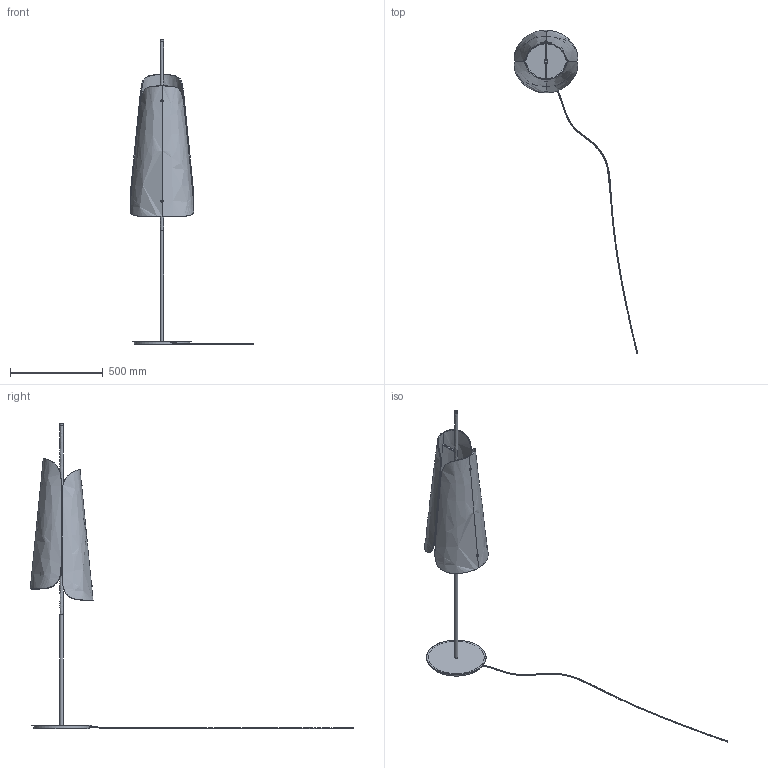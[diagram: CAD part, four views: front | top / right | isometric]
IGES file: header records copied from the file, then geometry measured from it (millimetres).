
Global section: file name: /Volumes/Team/Clients/Pulpo/2018 Bent Glass Lamp/3D/Bent Ma; native system: Rhinoceros ( Nov 10 2020 ); preprocessor: Trout Lake IGES 012 Nov 10 2020; date: 240305.135233; units: millimetre
Bounding box: 664.31 x 1739.6 x 1640 mm (x, y, z)
Surface area: 1708551.4 mm2 (no closed solid volume)
Topology: 0 solids, 0 shells, 187 faces, 2599 edges, 2536 vertices
Faces by surface type: bspline 187
